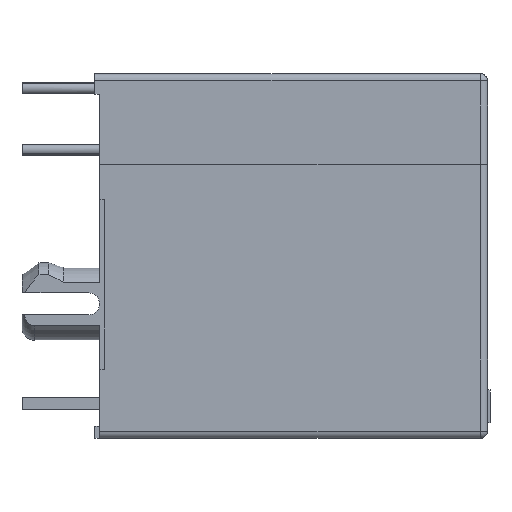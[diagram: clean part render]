
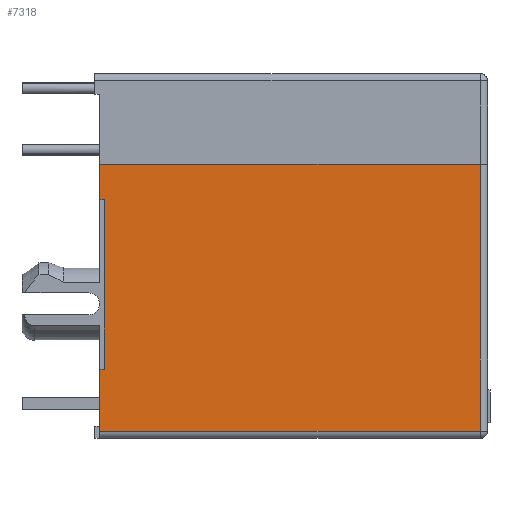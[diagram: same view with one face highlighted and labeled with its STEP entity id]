
A CAD part, front view. The second image highlights one B-rep face of the part: STEP entity #7318.
In plain terms, the highlighted planar face has unit normal (0, -1, 0).
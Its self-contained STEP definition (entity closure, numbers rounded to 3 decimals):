
#589=DIRECTION('',(0.,0.,-1.));
#590=VECTOR('',#589,1.45);
#591=CARTESIAN_POINT('',(0.,-14.05,-3.75));
#592=LINE('',#591,#590);
#750=DIRECTION('',(0.,0.,-1.));
#751=VECTOR('',#750,2.56);
#752=CARTESIAN_POINT('',(0.,-14.05,-12.19));
#753=LINE('',#752,#751);
#1088=DIRECTION('',(0.,0.,-1.));
#1089=VECTOR('',#1088,11.);
#1090=CARTESIAN_POINT('',(15.7,-14.05,-3.75));
#1091=LINE('',#1090,#1089);
#1092=DIRECTION('',(-1.,0.,0.));
#1093=VECTOR('',#1092,15.7);
#1094=CARTESIAN_POINT('',(15.7,-14.05,-14.75));
#1095=LINE('',#1094,#1093);
#1096=DIRECTION('',(1.,0.,0.));
#1097=VECTOR('',#1096,0.2);
#1098=CARTESIAN_POINT('',(0.,-14.05,-12.19));
#1099=LINE('',#1098,#1097);
#1100=DIRECTION('',(0.,0.,-1.));
#1101=VECTOR('',#1100,6.99);
#1102=CARTESIAN_POINT('',(0.2,-14.05,-5.2));
#1103=LINE('',#1102,#1101);
#1104=DIRECTION('',(1.,0.,0.));
#1105=VECTOR('',#1104,0.2);
#1106=CARTESIAN_POINT('',(0.,-14.05,-5.2));
#1107=LINE('',#1106,#1105);
#1108=DIRECTION('',(1.,0.,0.));
#1109=VECTOR('',#1108,15.7);
#1110=CARTESIAN_POINT('',(0.,-14.05,-3.75));
#1111=LINE('',#1110,#1109);
#4834=CARTESIAN_POINT('',(0.,-14.05,-3.75));
#4836=VERTEX_POINT('',#4834);
#6138=CARTESIAN_POINT('',(0.,-14.05,-5.2));
#6140=VERTEX_POINT('',#6138);
#6148=CARTESIAN_POINT('',(0.,-14.05,-12.19));
#6149=VERTEX_POINT('',#6148);
#6154=CARTESIAN_POINT('',(0.2,-14.05,-5.2));
#6155=CARTESIAN_POINT('',(0.2,-14.05,-12.19));
#6156=VERTEX_POINT('',#6154);
#6157=VERTEX_POINT('',#6155);
#6190=CARTESIAN_POINT('',(15.7,-14.05,-3.75));
#6191=CARTESIAN_POINT('',(15.7,-14.05,-14.75));
#6192=VERTEX_POINT('',#6190);
#6193=VERTEX_POINT('',#6191);
#6195=CARTESIAN_POINT('',(0.,-14.05,-14.75));
#6197=VERTEX_POINT('',#6195);
#7298=CARTESIAN_POINT('',(0.,-14.05,0.));
#7299=DIRECTION('',(0.,-1.,0.));
#7300=DIRECTION('',(0.,0.,-1.));
#7301=AXIS2_PLACEMENT_3D('',#7298,#7299,#7300);
#7302=PLANE('',#7301);
#7304=ORIENTED_EDGE('',*,*,#7303,.T.);
#7305=ORIENTED_EDGE('',*,*,#7290,.T.);
#7306=ORIENTED_EDGE('',*,*,#6920,.F.);
#7308=ORIENTED_EDGE('',*,*,#7307,.T.);
#7310=ORIENTED_EDGE('',*,*,#7309,.F.);
#7312=ORIENTED_EDGE('',*,*,#7311,.F.);
#7313=ORIENTED_EDGE('',*,*,#6817,.F.);
#7315=ORIENTED_EDGE('',*,*,#7314,.T.);
#7316=EDGE_LOOP('',(#7304,#7305,#7306,#7308,#7310,#7312,#7313,#7315));
#7317=FACE_OUTER_BOUND('',#7316,.F.);
#7318=ADVANCED_FACE('',(#7317),#7302,.T.);
#6817=EDGE_CURVE('',#4836,#6140,#592,.T.);
#6920=EDGE_CURVE('',#6149,#6197,#753,.T.);
#7290=EDGE_CURVE('',#6193,#6197,#1095,.T.);
#7303=EDGE_CURVE('',#6192,#6193,#1091,.T.);
#7307=EDGE_CURVE('',#6149,#6157,#1099,.T.);
#7309=EDGE_CURVE('',#6156,#6157,#1103,.T.);
#7311=EDGE_CURVE('',#6140,#6156,#1107,.T.);
#7314=EDGE_CURVE('',#4836,#6192,#1111,.T.);
